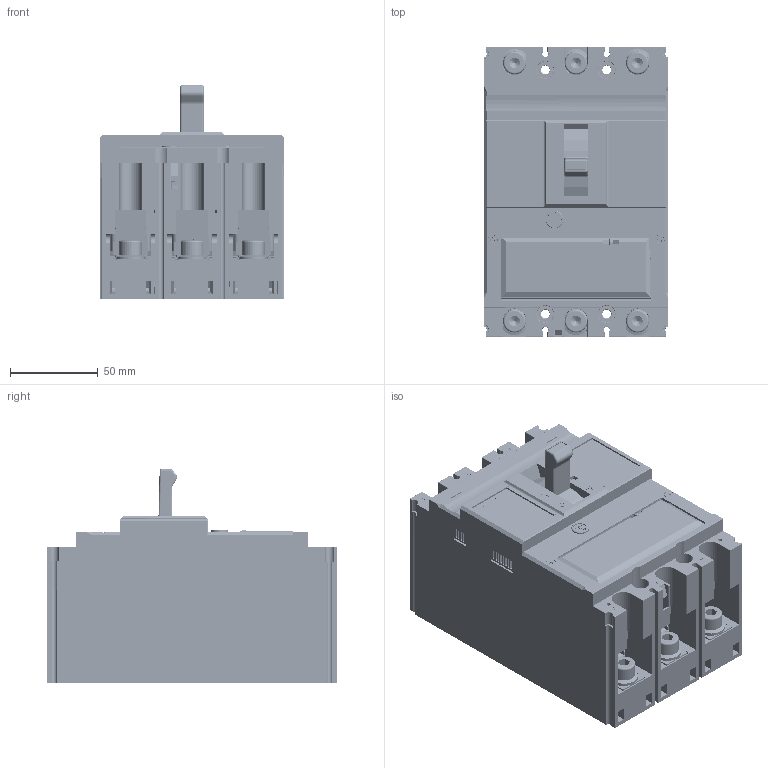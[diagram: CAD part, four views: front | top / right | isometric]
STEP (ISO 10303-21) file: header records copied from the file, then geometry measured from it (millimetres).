
FILE_DESCRIPTION (( 'STEP AP214' ), '1' );
FILE_NAME ('MNX250L_M_H_3P ﾈﾇﾌ.STEP', '2024-12-04T10:56:41', ( '' ), ( '' ), 'SwSTEP 2.0', 'SolidWorks 2022', '' );
FILE_SCHEMA (( 'AUTOMOTIVE_DESIGN' ));
Length unit declared in the file: millimetre
Products named in the file (1): MNX250L_M_H_3P ИЗМ
Bounding box: 105 x 165 x 121.57 mm (x, y, z)
Volume: 502185.8 mm3; surface area: 477348 mm2
Topology: 84 solids, 84 shells, 13000 faces, 36130 edges, 23392 vertices
Faces by surface type: plane 7891, cylinder 3918, cone 526, bspline 367, torus 225, sphere 73
Entity records: 599428 total; most frequent: CARTESIAN_POINT 123357, ORIENTED_EDGE 72088, DIRECTION 66515, EDGE_CURVE 36044, VECTOR 25371, LINE 25371, VERTEX_POINT 23391, AXIS2_PLACEMENT_3D 20572
